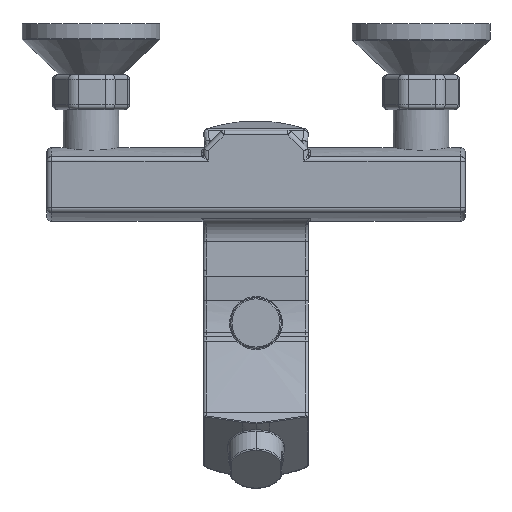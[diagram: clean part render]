
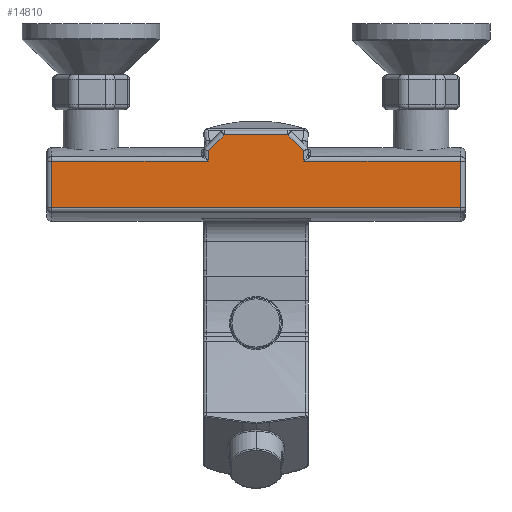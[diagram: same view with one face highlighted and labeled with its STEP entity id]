
A CAD part, front view. The second image highlights one B-rep face of the part: STEP entity #14810.
In plain terms, the highlighted planar face has unit normal (0, -1, 0).
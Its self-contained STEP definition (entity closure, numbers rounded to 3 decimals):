
#120 = EDGE_CURVE ( 'NONE', #13116, #2375, #17715, .T. ) ;
#362 = LINE ( 'NONE', #12617, #17128 ) ;
#874 = CARTESIAN_POINT ( 'NONE',  ( 88., -20.895, -24.322 ) ) ;
#1623 = CARTESIAN_POINT ( 'NONE',  ( 27.499, -20.895, 48.276 ) ) ;
#2025 = PLANE ( 'NONE',  #19460 ) ;
#2263 = VERTEX_POINT ( 'NONE', #12383 ) ;
#2375 = VERTEX_POINT ( 'NONE', #8135 ) ;
#2463 = DIRECTION ( 'NONE',  ( -1., 0., 0. ) ) ;
#2593 = CARTESIAN_POINT ( 'NONE',  ( -88., -20.895, -24.322 ) ) ;
#2724 = EDGE_CURVE ( 'NONE', #16030, #9521, #6532, .T. ) ;
#3143 = DIRECTION ( 'NONE',  ( 0., 0., 1. ) ) ;
#3276 = ORIENTED_EDGE ( 'NONE', *, *, #8324, .T. ) ;
#3394 = ORIENTED_EDGE ( 'NONE', *, *, #19176, .T. ) ;
#3466 = CARTESIAN_POINT ( 'NONE',  ( -20.5, -20.895, -14.224 ) ) ;
#3615 = DIRECTION ( 'NONE',  ( 0., 1., 0. ) ) ;
#3888 = CARTESIAN_POINT ( 'NONE',  ( 20.5, -20.895, 0.277 ) ) ;
#4002 = DIRECTION ( 'NONE',  ( 0., 0., 1. ) ) ;
#4343 = CARTESIAN_POINT ( 'NONE',  ( 62.501, -20.895, -41.724 ) ) ;
#4724 = VECTOR ( 'NONE', #9112, 1000. ) ;
#5146 = VECTOR ( 'NONE', #9753, 1000. ) ;
#5153 = ORIENTED_EDGE ( 'NONE', *, *, #5346, .T. ) ;
#5346 = EDGE_CURVE ( 'NONE', #20461, #15780, #20033, .T. ) ;
#5377 = CARTESIAN_POINT ( 'NONE',  ( 90., -20.895, -24.322 ) ) ;
#6067 = VECTOR ( 'NONE', #2463, 1000. ) ;
#6532 = LINE ( 'NONE', #4343, #19131 ) ;
#6757 = EDGE_CURVE ( 'NONE', #2375, #9846, #8882, .T. ) ;
#6953 = DIRECTION ( 'NONE',  ( 1., 0., 0. ) ) ;
#7034 = VECTOR ( 'NONE', #9756, 1000. ) ;
#7116 = EDGE_CURVE ( 'NONE', #2263, #16030, #9640, .T. ) ;
#7245 = DIRECTION ( 'NONE',  ( 0., 0., -1. ) ) ;
#8135 = CARTESIAN_POINT ( 'NONE',  ( -20.5, -20.895, -4.127 ) ) ;
#8324 = EDGE_CURVE ( 'NONE', #19382, #2263, #18181, .T. ) ;
#8539 = VECTOR ( 'NONE', #12668, 1000. ) ;
#8602 = EDGE_LOOP ( 'NONE', ( #3276, #14505, #19033, #10991, #17243, #8873, #10296, #16131, #5153, #3394 ) ) ;
#8873 = ORIENTED_EDGE ( 'NONE', *, *, #120, .T. ) ;
#8882 = LINE ( 'NONE', #18561, #4724 ) ;
#9112 = DIRECTION ( 'NONE',  ( -1., 0., 0. ) ) ;
#9255 = VECTOR ( 'NONE', #7245, 1000. ) ;
#9521 = VERTEX_POINT ( 'NONE', #10881 ) ;
#9640 = LINE ( 'NONE', #15028, #13811 ) ;
#9753 = DIRECTION ( 'NONE',  ( 0., 0., -1. ) ) ;
#9756 = DIRECTION ( 'NONE',  ( -1., 0., 0. ) ) ;
#9783 = EDGE_CURVE ( 'NONE', #16975, #13116, #12737, .T. ) ;
#9846 = VERTEX_POINT ( 'NONE', #20454 ) ;
#10296 = ORIENTED_EDGE ( 'NONE', *, *, #6757, .T. ) ;
#10881 = CARTESIAN_POINT ( 'NONE',  ( 13.672, -20.895, 7.105 ) ) ;
#10991 = ORIENTED_EDGE ( 'NONE', *, *, #18899, .T. ) ;
#11234 = LINE ( 'NONE', #12871, #7034 ) ;
#11654 = VECTOR ( 'NONE', #6953, 1000. ) ;
#11930 = CARTESIAN_POINT ( 'NONE',  ( 90., -20.895, -4.127 ) ) ;
#12111 = FACE_OUTER_BOUND ( 'NONE', #8602, .T. ) ;
#12272 = DIRECTION ( 'NONE',  ( -0.707, 0., 0.707 ) ) ;
#12383 = CARTESIAN_POINT ( 'NONE',  ( 20.5, -20.895, -4.127 ) ) ;
#12617 = CARTESIAN_POINT ( 'NONE',  ( 88., -20.895, -2.724 ) ) ;
#12668 = DIRECTION ( 'NONE',  ( -0.707, 0., -0.707 ) ) ;
#12737 = LINE ( 'NONE', #1623, #8539 ) ;
#12871 = CARTESIAN_POINT ( 'NONE',  ( 90., -20.895, 7.105 ) ) ;
#13116 = VERTEX_POINT ( 'NONE', #18748 ) ;
#13811 = VECTOR ( 'NONE', #4002, 1000. ) ;
#14505 = ORIENTED_EDGE ( 'NONE', *, *, #7116, .T. ) ;
#14661 = DIRECTION ( 'NONE',  ( 0., 0., 1. ) ) ;
#14810 = ADVANCED_FACE ( 'NONE', ( #12111 ), #2025, .F. ) ;
#15028 = CARTESIAN_POINT ( 'NONE',  ( 20.5, -20.895, -14.224 ) ) ;
#15780 = VERTEX_POINT ( 'NONE', #874 ) ;
#15973 = CARTESIAN_POINT ( 'NONE',  ( -13.672, -20.895, 7.105 ) ) ;
#16030 = VERTEX_POINT ( 'NONE', #3888 ) ;
#16131 = ORIENTED_EDGE ( 'NONE', *, *, #18163, .T. ) ;
#16975 = VERTEX_POINT ( 'NONE', #15973 ) ;
#17128 = VECTOR ( 'NONE', #3143, 1000. ) ;
#17243 = ORIENTED_EDGE ( 'NONE', *, *, #9783, .T. ) ;
#17683 = LINE ( 'NONE', #19874, #9255 ) ;
#17715 = LINE ( 'NONE', #3466, #5146 ) ;
#18001 = CARTESIAN_POINT ( 'NONE',  ( 88., -20.895, -4.127 ) ) ;
#18163 = EDGE_CURVE ( 'NONE', #9846, #20461, #17683, .T. ) ;
#18181 = LINE ( 'NONE', #11930, #6067 ) ;
#18561 = CARTESIAN_POINT ( 'NONE',  ( 90., -20.895, -4.127 ) ) ;
#18748 = CARTESIAN_POINT ( 'NONE',  ( -20.5, -20.895, 0.277 ) ) ;
#18899 = EDGE_CURVE ( 'NONE', #9521, #16975, #11234, .T. ) ;
#19033 = ORIENTED_EDGE ( 'NONE', *, *, #2724, .T. ) ;
#19131 = VECTOR ( 'NONE', #12272, 1000. ) ;
#19176 = EDGE_CURVE ( 'NONE', #15780, #19382, #362, .T. ) ;
#19356 = CARTESIAN_POINT ( 'NONE',  ( 90., -20.895, -14.224 ) ) ;
#19382 = VERTEX_POINT ( 'NONE', #18001 ) ;
#19460 = AXIS2_PLACEMENT_3D ( 'NONE', #19356, #3615, #14661 ) ;
#19874 = CARTESIAN_POINT ( 'NONE',  ( -88., -20.895, -14.224 ) ) ;
#20033 = LINE ( 'NONE', #5377, #11654 ) ;
#20454 = CARTESIAN_POINT ( 'NONE',  ( -88., -20.895, -4.127 ) ) ;
#20461 = VERTEX_POINT ( 'NONE', #2593 ) ;
